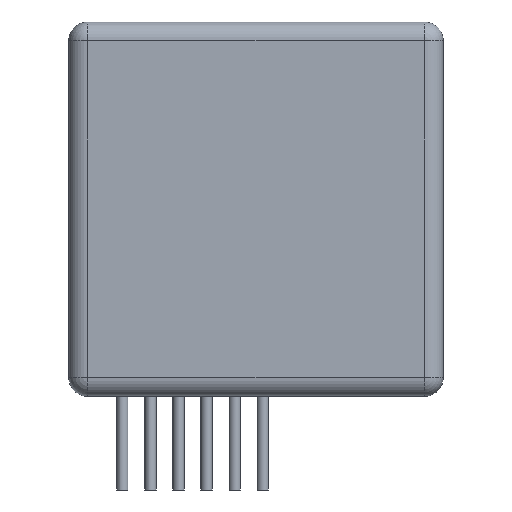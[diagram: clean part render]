
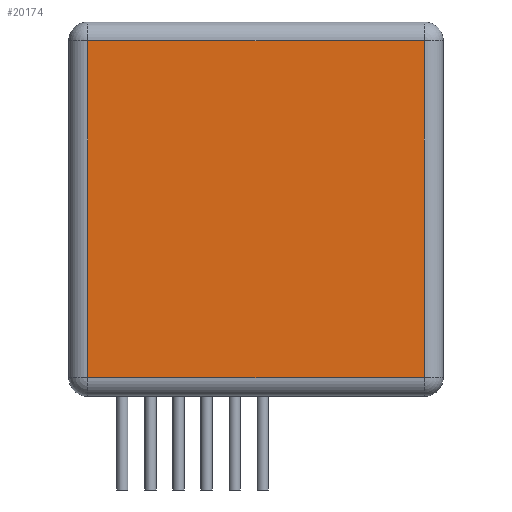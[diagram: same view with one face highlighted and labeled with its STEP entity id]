
A CAD part, front view. The second image highlights one B-rep face of the part: STEP entity #20174.
In plain terms, the highlighted planar face has unit normal (0, -1, 0).
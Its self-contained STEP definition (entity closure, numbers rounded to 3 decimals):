
#357 = LINE ( 'NONE', #17835, #12274 ) ;
#752 = DIRECTION ( 'NONE',  ( 0., 0., 1. ) ) ;
#1864 = ORIENTED_EDGE ( 'NONE', *, *, #12100, .T. ) ;
#3096 = LINE ( 'NONE', #10401, #27589 ) ;
#3257 = CARTESIAN_POINT ( 'NONE',  ( -37.399, -13.818, 40. ) ) ;
#4393 = LINE ( 'NONE', #9088, #28934 ) ;
#5470 = LINE ( 'NONE', #19425, #13288 ) ;
#5633 = DIRECTION ( 'NONE',  ( 0., 1., 0. ) ) ;
#6805 = ORIENTED_EDGE ( 'NONE', *, *, #15478, .T. ) ;
#8195 = PLANE ( 'NONE',  #25298 ) ;
#8218 = CARTESIAN_POINT ( 'NONE',  ( -35.399, -13.818, 2. ) ) ;
#9088 = CARTESIAN_POINT ( 'NONE',  ( -35.399, -13.818, 40. ) ) ;
#9947 = DIRECTION ( 'NONE',  ( -1., 0., 0. ) ) ;
#10401 = CARTESIAN_POINT ( 'NONE',  ( -37.399, -13.818, 2. ) ) ;
#10654 = DIRECTION ( 'NONE',  ( 0., 0., 1. ) ) ;
#11887 = ORIENTED_EDGE ( 'NONE', *, *, #16246, .T. ) ;
#12100 = EDGE_CURVE ( 'NONE', #27177, #15685, #3096, .T. ) ;
#12274 = VECTOR ( 'NONE', #10654, 1000. ) ;
#12901 = CARTESIAN_POINT ( 'NONE',  ( -35.399, -13.818, 38. ) ) ;
#13288 = VECTOR ( 'NONE', #9947, 1000. ) ;
#14135 = VERTEX_POINT ( 'NONE', #22648 ) ;
#14283 = EDGE_CURVE ( 'NONE', #28950, #27177, #4393, .T. ) ;
#15478 = EDGE_CURVE ( 'NONE', #15685, #14135, #357, .T. ) ;
#15685 = VERTEX_POINT ( 'NONE', #21192 ) ;
#16006 = FACE_OUTER_BOUND ( 'NONE', #27902, .T. ) ;
#16246 = EDGE_CURVE ( 'NONE', #14135, #28950, #5470, .T. ) ;
#17835 = CARTESIAN_POINT ( 'NONE',  ( 0.601, -13.818, 40. ) ) ;
#19425 = CARTESIAN_POINT ( 'NONE',  ( -37.399, -13.818, 38. ) ) ;
#19643 = ORIENTED_EDGE ( 'NONE', *, *, #14283, .T. ) ;
#20174 = ADVANCED_FACE ( 'NONE', ( #16006 ), #8195, .F. ) ;
#21192 = CARTESIAN_POINT ( 'NONE',  ( 0.601, -13.818, 2. ) ) ;
#22648 = CARTESIAN_POINT ( 'NONE',  ( 0.601, -13.818, 38. ) ) ;
#25298 = AXIS2_PLACEMENT_3D ( 'NONE', #3257, #5633, #752 ) ;
#27027 = DIRECTION ( 'NONE',  ( 1., 0., 0. ) ) ;
#27177 = VERTEX_POINT ( 'NONE', #8218 ) ;
#27589 = VECTOR ( 'NONE', #27027, 1000. ) ;
#27902 = EDGE_LOOP ( 'NONE', ( #11887, #19643, #1864, #6805 ) ) ;
#28200 = DIRECTION ( 'NONE',  ( 0., 0., -1. ) ) ;
#28934 = VECTOR ( 'NONE', #28200, 1000. ) ;
#28950 = VERTEX_POINT ( 'NONE', #12901 ) ;
